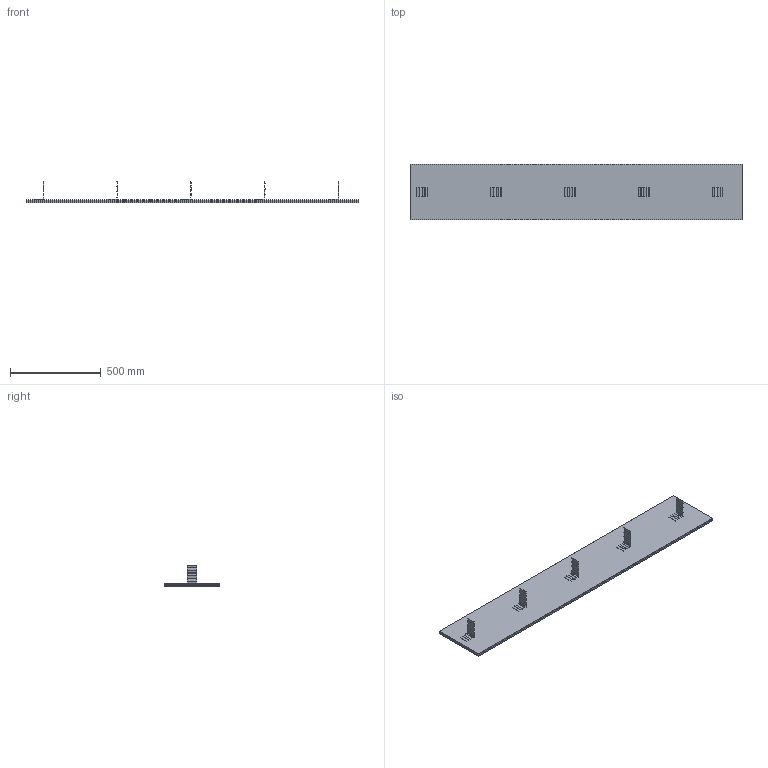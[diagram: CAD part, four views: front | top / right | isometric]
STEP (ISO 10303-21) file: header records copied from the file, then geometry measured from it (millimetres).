
FILE_DESCRIPTION(/* description */ (''),/* implementation_level */ '2;1');
FILE_NAME(/* name */ 'C:\001_Work\Designs\SWW\SWW 12 x 72.stp',/* time_stamp */ '2015-08-12T14:42:05-04:00',/* author */ ('rramoutar'),/* organization */ (''),/* preprocessor_version */ 'ST-DEVELOPER v15.6',/* originating_system */ 'Autodesk Inventor 2015',/* authorisation */ '');
FILE_SCHEMA (('AUTOMOTIVE_DESIGN { 1 0 10303 214 3 1 1 }'));
Length unit declared in the file: inch
Products named in the file (4): SWW 12 x 72 SHEET METAL (A-14177-1); SWW 12 x 72 WAFFLE PAD (A-14177-1); SWW 8 x 72 BRICK TIES (A-14177-1); SWW 12  x 72 WALL ISOLATOR (A-14177-1)
Assembly tree (8 placements, depth 2):
  SWW 12  x 72 WALL ISOLATOR (A-14177-1)
    SWW 12 x 72 SHEET METAL (A-14177-1)
    SWW 12 x 72 WAFFLE PAD (A-14177-1)  x2
    SWW 8 x 72 BRICK TIES (A-14177-1)  x5
Bounding box: 1828.8 x 304.8 x 121.11 mm (x, y, z)
Volume: 9750289 mm3; surface area: 3503772.4 mm2
Topology: 8 solids, 8 shells, 448 faces, 896 edges, 464 vertices
Faces by surface type: plane 348, cylinder 100
Entity records: 2555 total; most frequent: DIRECTION 456, CARTESIAN_POINT 410, ORIENTED_EDGE 392, EDGE_CURVE 196, LINE 156, VECTOR 156, AXIS2_PLACEMENT_3D 150, VERTEX_POINT 104
